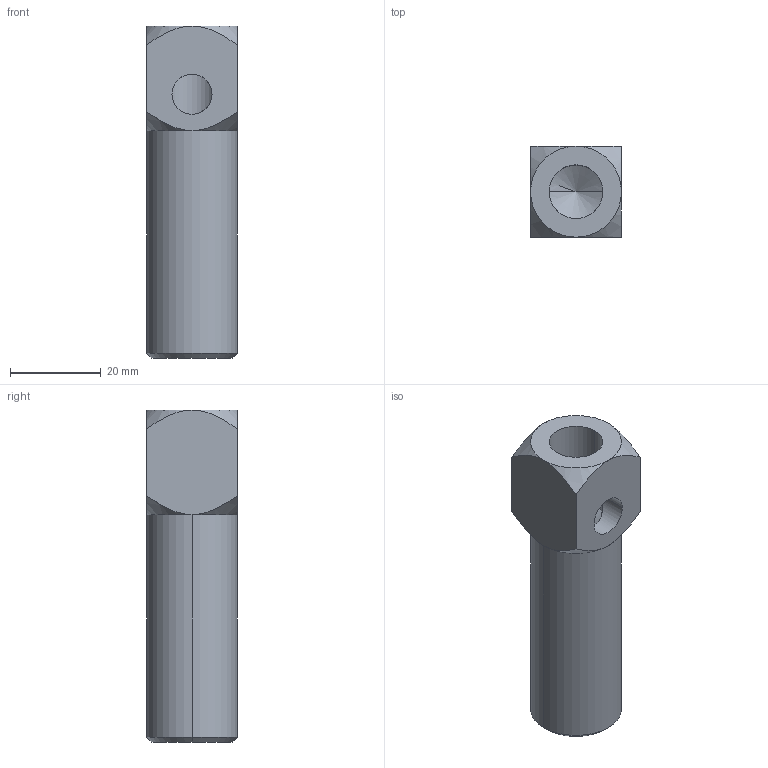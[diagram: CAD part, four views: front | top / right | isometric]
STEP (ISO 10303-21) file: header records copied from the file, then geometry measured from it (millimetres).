
FILE_DESCRIPTION (( 'STEP AP214' ), '1' );
FILE_NAME ('SVE-G142050.STEP', '2023-01-18T05:56:43', ( 'Windows User' ), ( 'P R C' ), 'SwSTEP 2.0', 'SolidWorks 2019', '' );
FILE_SCHEMA (( 'AUTOMOTIVE_DESIGN' ));
Length unit declared in the file: millimetre
Products named in the file (1): SVE-G142050
Bounding box: 20 x 20 x 73 mm (x, y, z)
Volume: 12873.7 mm3; surface area: 8566.9 mm2
Topology: 1 solids, 1 shells, 29 faces, 68 edges, 38 vertices
Faces by surface type: cone 16, cylinder 8, plane 5
Entity records: 1040 total; most frequent: CARTESIAN_POINT 378, DIRECTION 132, ORIENTED_EDGE 128, EDGE_CURVE 64, AXIS2_PLACEMENT_3D 56, VERTEX_POINT 38, EDGE_LOOP 32, FACE_OUTER_BOUND 29
